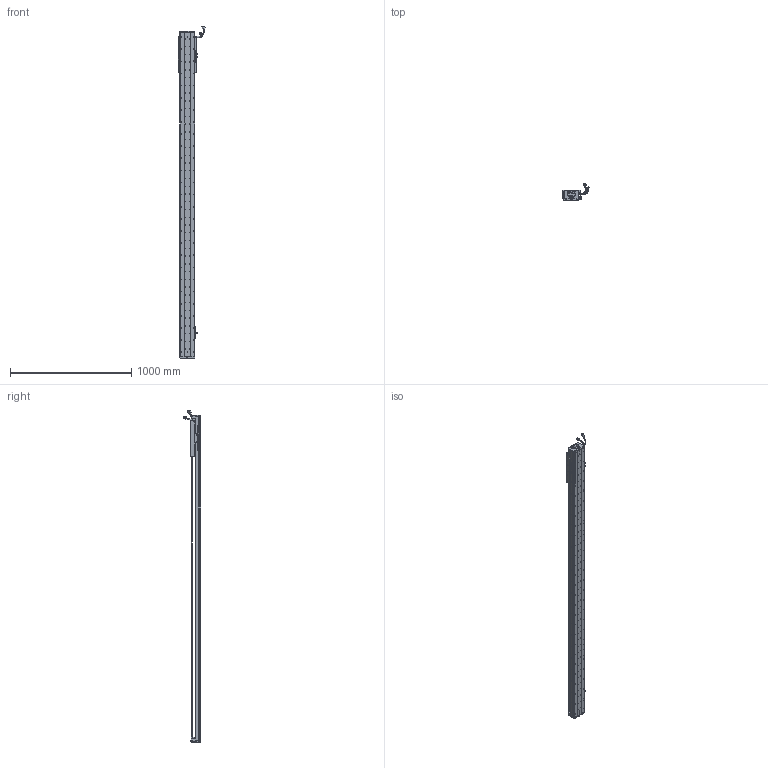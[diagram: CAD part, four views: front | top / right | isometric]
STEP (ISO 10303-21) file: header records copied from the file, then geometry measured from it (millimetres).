
FILE_DESCRIPTION (( 'STEP AP203' ), '1' );
FILE_NAME ('Z4-RY120D-1-L500-B-K.SLDASM_2300.step', '2021-05-17T06:10:02', ( '盈信电脑' ), ( '东莞市道滘镇水果街19号' ), 'SwSTEP 2.0', 'SolidWorks 2016', '' );
FILE_SCHEMA (( 'CONFIG_CONTROL_DESIGN' ));
Length unit declared in the file: millimetre
Products named in the file (37): Z4-RY120铝滑块（21款）; 080黍杅芛假蚾釱21遴; 140蚥薯蝶輸; COVER-Part-1; HOLDER0; COVER; LABEL-Part-1; 覜茼ん672; 120-Z-臏賑輸盄裔(21遴); LABEL; SHIELDPLATE; 672嫖萇羲壽假蚾釱; Z4-RY120D-1-L500-B-K.SLDASM_2300; PBU_SHEET; SCREW-M1.7; Z-RY120D詩湍狟揤裔; SEAL-Part-1; HARNESS; SCREW-M1.6-1; 140雄赽晤鎢ん堤盄; Z4-RY120-500-倰第菁釱_2300; SEAL; HARNESS-Part-1; HARNESS-Part-2; RY100FB-遵嫖萇覜茼え; SCREW-M1.6; SCALE; SCALE-Part-1; SCREW-M1.6-3; Z4-RY120-L500詩湍100mm遵_2300; SCREW-M1.7-1; Z-RY120D詩湍奻揤裔; SCALE-Part-2; SCREW-M1.6-2; Z-120詩湍傷裔啣; 榋妏寠巭燃_暯_M2_2; PSLH080_PSLF2
Assembly tree (43 placements, depth 4):
  Z4-RY120D-1-L500-B-K.SLDASM_2300
    Z4-RY120-500-倰第菁釱_2300
    覜茼ん672  x3
    672嫖萇羲壽假蚾釱  x2
    Z4-RY120铝滑块（21款）
    PSLH080_PSLF2
      SCALE
        SCALE-Part-1
        SCALE-Part-2
      HARNESS
        HARNESS-Part-1
        HARNESS-Part-2
      LABEL
        LABEL-Part-1
      COVER
        COVER-Part-1
      SEAL
        SEAL-Part-1
      榋妏寠巭燃_暯_M2_2
      SHIELDPLATE
      SCREW-M1.7
      SCREW-M1.7-1
      PBU_SHEET
      SCREW-M1.6
      SCREW-M1.6-1
      SCREW-M1.6-2
      SCREW-M1.6-3
      HOLDER0
    080黍杅芛假蚾釱21遴
    120-Z-臏賑輸盄裔(21遴)
    140雄赽晤鎢ん堤盄
    140蚥薯蝶輸  x2
    RY100FB-遵嫖萇覜茼え
    Z-120詩湍傷裔啣  x2
    Z-RY120D詩湍奻揤裔  x2
    Z-RY120D詩湍狟揤裔  x2
    Z4-RY120-L500詩湍100mm遵_2300
Bounding box: 222.83 x 140.94 x 2738.99 mm (x, y, z)
Volume: 6583940.5 mm3; surface area: 2270097.7 mm2
Topology: 38 solids, 38 shells, 3747 faces, 10686 edges, 6744 vertices
Faces by surface type: cylinder 1980, plane 1257, cone 388, torus 69, bspline 53
Entity records: 126315 total; most frequent: CARTESIAN_POINT 38862, ORIENTED_EDGE 18124, DIRECTION 16580, EDGE_CURVE 9062, AXIS2_PLACEMENT_3D 6138, VERTEX_POINT 5864, VECTOR 4304, LINE 4304
